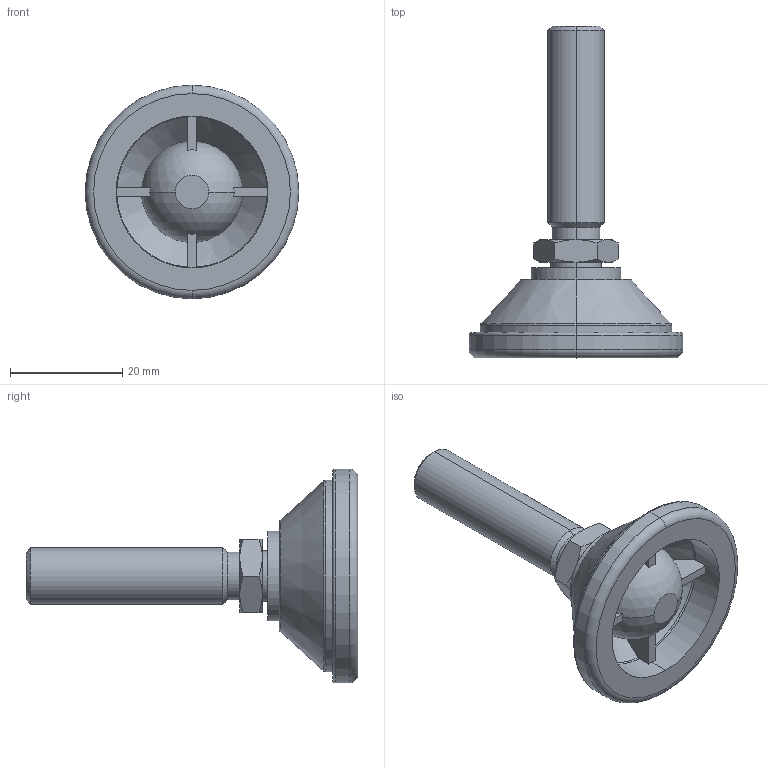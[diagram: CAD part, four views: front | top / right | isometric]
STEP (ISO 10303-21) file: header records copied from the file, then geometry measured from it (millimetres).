
FILE_DESCRIPTION (( 'STEP AP203' ), '1' );
FILE_NAME ('3472.W100.step', '2009-10-21T16:58:36', ( 'Wixroyd' ), ( 'Wixroyd' ), 'SwSTEP 2.0', 'SolidWorks 2009', '' );
FILE_SCHEMA (( 'CONFIG_CONTROL_DESIGN' ));
Length unit declared in the file: millimetre
Products named in the file (3): Part1_3472W100; Part2_3472W100; 3472.W100
Assembly tree (2 placements, depth 2):
  3472.W100
    Part1_3472W100
    Part2_3472W100
Bounding box: 38 x 59 x 38 mm (x, y, z)
Volume: 11637.2 mm3; surface area: 7114.4 mm2
Topology: 2 solids, 2 shells, 82 faces, 200 edges, 124 vertices
Faces by surface type: plane 26, cone 22, cylinder 16, torus 12, sphere 6
Entity records: 2787 total; most frequent: CARTESIAN_POINT 597, DIRECTION 432, ORIENTED_EDGE 382, AXIS2_PLACEMENT_3D 194, EDGE_CURVE 191, VERTEX_POINT 119, CIRCLE 107, EDGE_LOOP 88
